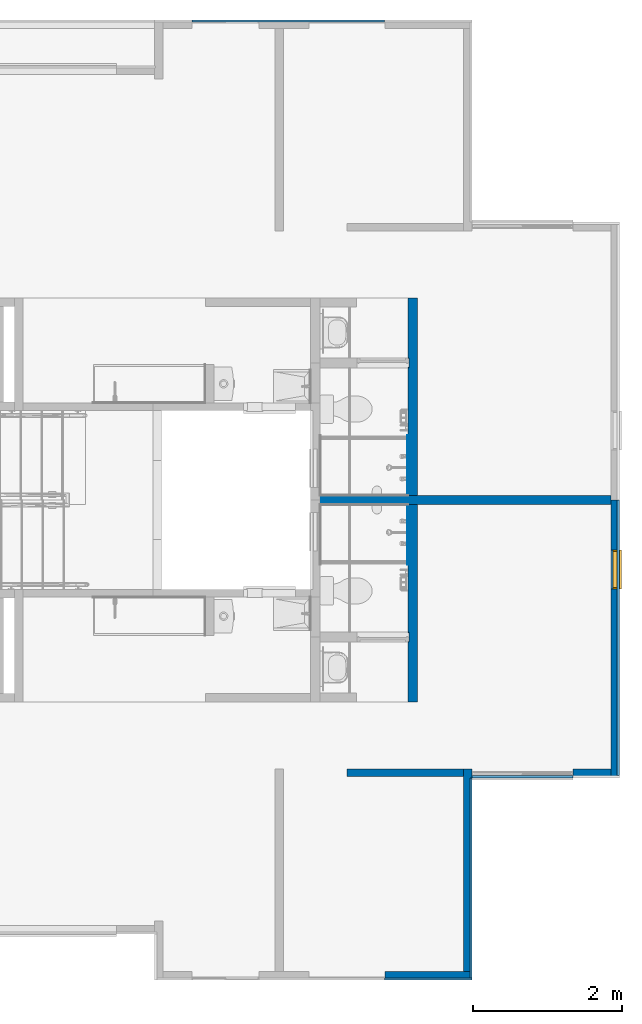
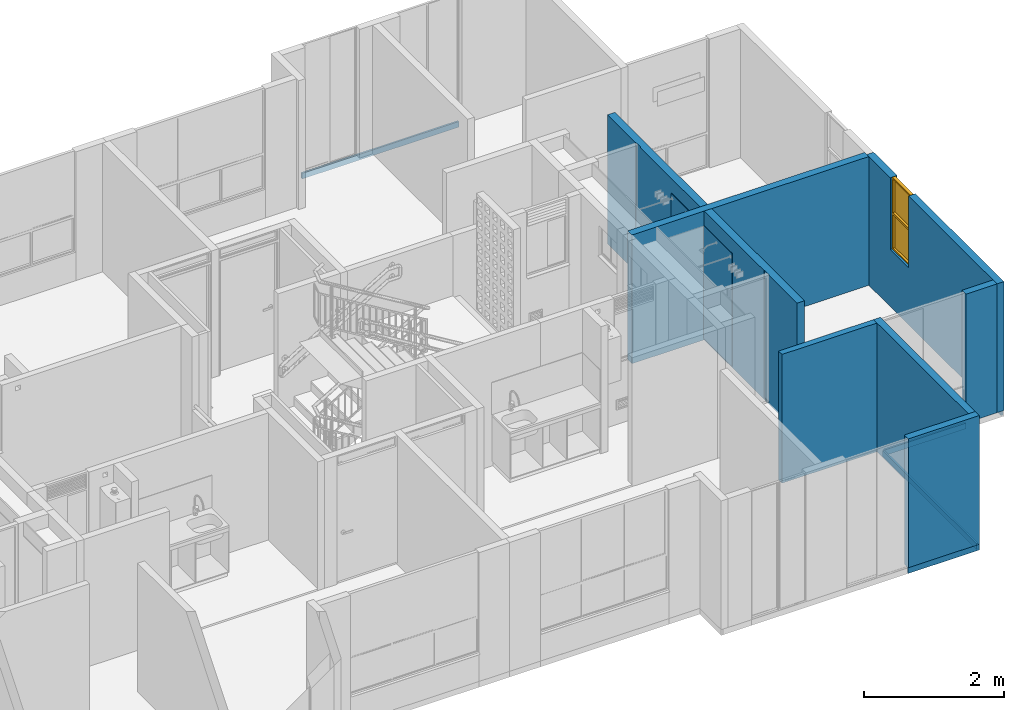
# One storey, part 27 of 51: 15 walls, 1 window, 3 openings.
"""IFC4 building model written with IfcOpenShell, lengths in metres."""

from ifc_helpers import new_model, entity, si_unit, converted_unit, derived_unit, direction, frame, origin, place, context, subcontext, project, spatial, indexed_curve, outline, extrude, polygons, source, transform, mapped, material, constituent, constituent_set, type_object, type_shapes, element, fill, save


model = new_model("IFC4")

# Units and contexts
model_context = context("Model", 3, precision=1e-05, world=origin(), true_north=direction((6.123031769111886e-17, 1.0)))
body_context = subcontext(model_context, "Body", "Model", "MODEL_VIEW")
ifc_project = project(units=[si_unit("LENGTHUNIT", "METRE"), si_unit("AREAUNIT", "SQUARE_METRE"), si_unit("VOLUMEUNIT", "CUBIC_METRE"), converted_unit("PLANEANGLEUNIT", "DEGREE", entity("IfcRatioMeasure", 0.017453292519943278), si_unit("PLANEANGLEUNIT", "RADIAN"), dimensions=[0, 0, 0, 0, 0, 0, 0]), si_unit("MASSUNIT", "GRAM", prefix="KILO"), derived_unit("MASSDENSITYUNIT", [(si_unit("MASSUNIT", "GRAM", prefix="KILO"), 1), (si_unit("LENGTHUNIT", "METRE"), -3)]), derived_unit("IONCONCENTRATIONUNIT", [(si_unit("MASSUNIT", "GRAM", prefix="KILO"), 1), (si_unit("LENGTHUNIT", "METRE"), -3)]), derived_unit("MOMENTOFINERTIAUNIT", [(si_unit("LENGTHUNIT", "METRE"), 4)]), si_unit("TIMEUNIT", "SECOND"), si_unit("FREQUENCYUNIT", "HERTZ"), si_unit("THERMODYNAMICTEMPERATUREUNIT", "DEGREE_CELSIUS"), derived_unit("THERMALTRANSMITTANCEUNIT", [(si_unit("MASSUNIT", "GRAM", prefix="KILO"), 1), (si_unit("THERMODYNAMICTEMPERATUREUNIT", "KELVIN"), -1), (si_unit("TIMEUNIT", "SECOND"), -3)]), derived_unit("THERMALCONDUCTANCEUNIT", [(si_unit("MASSUNIT", "GRAM", prefix="KILO"), 1), (si_unit("THERMODYNAMICTEMPERATUREUNIT", "KELVIN"), -1), (si_unit("TIMEUNIT", "SECOND"), -3), (si_unit("LENGTHUNIT", "METRE"), 1)]), derived_unit("VOLUMETRICFLOWRATEUNIT", [(si_unit("LENGTHUNIT", "METRE"), 3), (si_unit("TIMEUNIT", "SECOND"), -1)]), derived_unit("MASSFLOWRATEUNIT", [(si_unit("MASSUNIT", "GRAM", prefix="KILO"), 1), (si_unit("TIMEUNIT", "SECOND"), -1)]), derived_unit("ROTATIONALFREQUENCYUNIT", [(si_unit("TIMEUNIT", "SECOND"), -1)]), si_unit("ELECTRICCURRENTUNIT", "AMPERE"), si_unit("ELECTRICVOLTAGEUNIT", "VOLT"), si_unit("POWERUNIT", "WATT"), si_unit("FORCEUNIT", "NEWTON", prefix="KILO"), si_unit("ILLUMINANCEUNIT", "LUX"), si_unit("LUMINOUSFLUXUNIT", "LUMEN"), si_unit("LUMINOUSINTENSITYUNIT", "CANDELA"), derived_unit("USERDEFINED", [(si_unit("MASSUNIT", "GRAM", prefix="KILO"), -1), (si_unit("LENGTHUNIT", "METRE"), -2), (si_unit("TIMEUNIT", "SECOND"), 3), (si_unit("LUMINOUSFLUXUNIT", "LUMEN"), 1)]), derived_unit("USERDEFINED", [(si_unit("MASSUNIT", "GRAM", prefix="KILO"), 1), (si_unit("TIMEUNIT", "SECOND"), -3), (si_unit("LENGTHUNIT", "METRE"), 3), (si_unit("ELECTRICCURRENTUNIT", "AMPERE"), -2)]), derived_unit("SOUNDPOWERUNIT", [(si_unit("MASSUNIT", "GRAM", prefix="KILO"), 1), (si_unit("TIMEUNIT", "SECOND"), -3), (si_unit("LENGTHUNIT", "METRE"), 2)]), derived_unit("SOUNDPRESSUREUNIT", [(si_unit("MASSUNIT", "GRAM", prefix="KILO"), 1), (si_unit("LENGTHUNIT", "METRE"), -1), (si_unit("TIMEUNIT", "SECOND"), -2)]), derived_unit("LINEARVELOCITYUNIT", [(si_unit("LENGTHUNIT", "METRE"), 1), (si_unit("TIMEUNIT", "SECOND"), -1)]), si_unit("PRESSUREUNIT", "PASCAL"), derived_unit("USERDEFINED", [(si_unit("MASSUNIT", "GRAM", prefix="KILO"), 1), (si_unit("LENGTHUNIT", "METRE"), -2), (si_unit("TIMEUNIT", "SECOND"), -2)]), derived_unit("LINEARFORCEUNIT", [(si_unit("MASSUNIT", "GRAM", prefix="KILO"), 1), (si_unit("TIMEUNIT", "SECOND"), -2)]), derived_unit("PLANARFORCEUNIT", [(si_unit("MASSUNIT", "GRAM", prefix="KILO"), 1), (si_unit("LENGTHUNIT", "METRE"), -1), (si_unit("TIMEUNIT", "SECOND"), -2)]), derived_unit("SPECIFICHEATCAPACITYUNIT", [(si_unit("THERMODYNAMICTEMPERATUREUNIT", "KELVIN"), -1), (si_unit("LENGTHUNIT", "METRE"), 2), (si_unit("TIMEUNIT", "SECOND"), -2)]), derived_unit("HEATINGVALUEUNIT", [(si_unit("LENGTHUNIT", "METRE"), 2), (si_unit("TIMEUNIT", "SECOND"), -2)]), derived_unit("VAPORPERMEABILITYUNIT", [(si_unit("LENGTHUNIT", "METRE"), -1), (si_unit("TIMEUNIT", "SECOND"), 1)]), derived_unit("DYNAMICVISCOSITYUNIT", [(si_unit("MASSUNIT", "GRAM", prefix="KILO"), 1), (si_unit("TIMEUNIT", "SECOND"), -1), (si_unit("LENGTHUNIT", "METRE"), -1)]), derived_unit("THERMALEXPANSIONCOEFFICIENTUNIT", [(si_unit("THERMODYNAMICTEMPERATUREUNIT", "KELVIN"), -1)]), derived_unit("MODULUSOFELASTICITYUNIT", [(si_unit("MASSUNIT", "GRAM", prefix="KILO"), 1), (si_unit("LENGTHUNIT", "METRE"), -1), (si_unit("TIMEUNIT", "SECOND"), -2)]), derived_unit("ISOTHERMALMOISTURECAPACITYUNIT", [(si_unit("LENGTHUNIT", "METRE"), 3), (si_unit("MASSUNIT", "GRAM", prefix="KILO"), -1)]), derived_unit("MOISTUREDIFFUSIVITYUNIT", [(si_unit("TIMEUNIT", "SECOND"), -1), (si_unit("LENGTHUNIT", "METRE"), 2)])], contexts=[model_context])

# Site, building, storey
site_placement = place(None, origin())
site = spatial("IfcSite", under=ifc_project, at=site_placement, Name="Default", CompositionType="ELEMENT")
building_placement = place(site_placement, origin())
building = spatial("IfcBuilding", under=site, at=building_placement, CompositionType="ELEMENT")
storey_placement = place(building_placement, frame((0.0, 0.0, 2.350000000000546)))
storey = spatial("IfcBuildingStorey", under=building, at=storey_placement, Name="Nivel 2", CompositionType="ELEMENT", Elevation=2.350000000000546)

# Wall
ifc_material_1 = material(Name="Concreto (Aire)", Category="Materials")
wall_type_1 = type_object("IfcWallType", Name="Basic Wall:B2010 - 0.12m - Muro interior en concreto", PredefinedType="STANDARD")
wall_1_placement = place(storey_placement, frame((18.587500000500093, -6.425000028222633, 0.0), z_axis=(0.0, 0.0, 1.0), x_axis=(-1.0, 0.0, 0.0)))
element("IfcWall", 1, at=wall_1_placement, inside=storey, type_object=wall_type_1, material=ifc_material_1, Name="Basic Wall:B2010 - 0.12m - Muro interior en concreto", ObjectType="Basic Wall:B2010 - 0.12m - Muro interior en concreto", PredefinedType="NOTDEFINED", context=body_context, shape_type="SweptSolid", body=[
    extrude(outline(indexed_curve([(3.914999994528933, 0.06000000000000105), (1.8965521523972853e-16, 0.060000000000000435), (-1.8965521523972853e-16, -0.060000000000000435), (3.914999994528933, -0.05999999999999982), (3.914999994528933, 0.06000000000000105)], self_intersect=False)), origin(), (0.0, 0.0, 1.0), 2.2500000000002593),
])

# Wall, opening, window
ifc_material_2 = material(Name="Ladrillo claro (Aire)", Category="Materials")
wall_type_2 = type_object("IfcWallType", Name="Basic Wall:B2010 - 0.115m - Muro exterior en mampostería - Ladrillo", PredefinedType="STANDARD")
wall_2_placement = place(storey_placement, frame((18.645000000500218, -10.15500002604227, 0.0), z_axis=(0.0, 0.0, 1.0), x_axis=(0.0, 1.0, 0.0)))
wall_2 = element("IfcWall", 2, at=wall_2_placement, inside=storey, type_object=wall_type_2, material=ifc_material_2, Name="Basic Wall:B2010 - 0.115m - Muro exterior en mampostería - Ladrillo", ObjectType="Basic Wall:B2010 - 0.115m - Muro exterior en mampostería - Ladrillo", PredefinedType="NOTDEFINED", context=body_context, shape_type="Tessellation", body=[
    polygons([(3.729999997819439, -0.05750000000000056, 2.2500000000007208), (3.05624999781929, -0.05749999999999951, 2.249999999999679), (3.05624999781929, -0.05749999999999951, 0.9999999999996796), (2.5362499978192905, -0.05749999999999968, 0.9999999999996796), (2.5362499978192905, -0.05749999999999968, 2.2500000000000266), (0.0, -0.057499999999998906, 2.2500000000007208), (0.0, -0.057499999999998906, 2.707167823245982e-16), (3.729999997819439, -0.05750000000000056, 2.707167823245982e-16), (3.056249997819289, 0.057500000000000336, 0.9999999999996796), (3.056249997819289, 0.057500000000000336, 2.249999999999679), (3.729999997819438, 0.05750000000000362, 2.2500000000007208), (3.729999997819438, 0.05750000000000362, 2.707167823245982e-16), (0.0, 0.05750000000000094, 2.707167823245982e-16), (0.0, 0.05750000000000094, 2.2500000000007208), (2.5362499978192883, 0.05750000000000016, 2.2500000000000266), (2.5362499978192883, 0.05750000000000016, 0.9999999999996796)], [[[1, 2, 3, 4, 5, 6, 7, 8]], [[9, 10, 11, 12, 13, 14, 15, 16]], [[8, 7, 13, 12]], [[1, 8, 12, 11]], [[11, 10, 2, 1]], [[7, 6, 14, 13]], [[5, 4, 16, 15]], [[3, 2, 10, 9]], [[4, 3, 9, 16]], [[15, 14, 6, 5]]], closed=True),
])
opening_1_placement = place(wall_2_placement, frame((3.056249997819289, 0.05750000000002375, 1.0)))
opening_1 = element("IfcOpeningElement", 3, at=opening_1_placement, cuts=wall_2, Name="B2020 - Ventana batiente - Aluminio + Vidrio:B2020 -0.52m x 1.1.25m - Ventana batiente 2C - Aluminio + Vidrio:1", PredefinedType="OPENING", context=body_context, shape_type="SweptSolid", body=[
    extrude(outline(indexed_curve([(0.0, 0.5199999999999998), (0.0, 0.0), (1.2499999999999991, 0.0), (1.2499999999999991, 0.5199999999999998), (0.0, 0.5199999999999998)], self_intersect=False)), frame((0.0, 0.0, 0.0), z_axis=(0.0, -1.0, 0.0), x_axis=(0.0, 0.0, 1.0)), (0.0, 0.0, 1.0), 0.115),
])
ifc_material_3 = material(Name="Vidrio", Category="Materials")
ifc_constituent_1 = constituent(ifc_material_3, Name="Vidrio", Category="Materials")
ifc_material_4 = material(Name="Aluminio", Category="Materials")
ifc_constituent_2 = constituent(ifc_material_4, Name="Aluminio", Category="Materials")
ifc_material_5 = material(Name="<Unnamed>")
ifc_constituent_3 = constituent(ifc_material_5, Name="<Unnamed>")
ifc_constituent_set_1 = constituent_set(constituents=[ifc_constituent_1, ifc_constituent_2, ifc_constituent_3])
ifc_constituent_4 = constituent(ifc_material_3, Name="Vidrio", Category="Materials")
ifc_constituent_5 = constituent(ifc_material_4, Name="Aluminio", Category="Materials")
ifc_constituent_6 = constituent(ifc_material_5, Name="<Unnamed>")
ifc_constituent_set_2 = constituent_set(constituents=[ifc_constituent_4, ifc_constituent_5, ifc_constituent_6])
window_type = type_object("IfcWindowType", Name="B2020 - Ventana batiente - Aluminio + Vidrio:B2020 -0.52m x 1.1.25m - Ventana batiente 2C - Aluminio + Vidrio", PartitioningType="NOTDEFINED", PredefinedType="WINDOW", material=ifc_constituent_set_2)
shared_shape = source(origin(), body_context, "Body", "SweptSolid", [
    extrude(outline(indexed_curve([(-0.2400000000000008, -0.001999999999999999), (0.2400000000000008, -0.001999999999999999), (0.2400000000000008, 0.0020000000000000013), (-0.2400000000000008, 0.0020000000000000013), (-0.2400000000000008, -0.001999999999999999)], self_intersect=False)), frame((0.26000000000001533, 0.07013901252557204, 0.01999999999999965), z_axis=(0.0, 0.0, 1.0), x_axis=(-1.0, 0.0, 0.0)), (0.0, 0.0, 1.0), 0.585),
    extrude(outline(indexed_curve([(-0.2599999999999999, -0.3124999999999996), (0.2599999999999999, -0.3124999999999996), (0.2599999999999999, 0.3124999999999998), (-0.2599999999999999, 0.3124999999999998), (-0.2599999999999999, -0.3124999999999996)], self_intersect=False), holes=[indexed_curve([(-0.24000000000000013, 0.2925), (0.24000000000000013, 0.2925), (0.24000000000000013, -0.2924999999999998), (-0.24000000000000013, -0.2924999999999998), (-0.24000000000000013, 0.2925)], self_intersect=False)]), frame((0.260000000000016, 0.08249999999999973, 0.3124999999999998), z_axis=(0.0, -1.0, 0.0), x_axis=(-1.0, 0.0, 0.0)), (0.0, 0.0, 1.0), 0.05),
    extrude(outline(indexed_curve([(-0.2400000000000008, -0.001999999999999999), (0.2400000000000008, -0.001999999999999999), (0.2400000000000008, 0.0020000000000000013), (-0.2400000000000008, 0.0020000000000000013), (-0.2400000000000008, -0.001999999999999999)], self_intersect=False)), frame((0.2600000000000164, 0.07013901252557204, 0.6449999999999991), z_axis=(0.0, 0.0, 1.0), x_axis=(-1.0, 0.0, 0.0)), (0.0, 0.0, 1.0), 0.585),
    extrude(outline(indexed_curve([(-0.2599999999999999, -0.3124999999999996), (0.2599999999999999, -0.3124999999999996), (0.2599999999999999, 0.3124999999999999), (-0.2599999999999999, 0.3124999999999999), (-0.2599999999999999, -0.3124999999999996)], self_intersect=False), holes=[indexed_curve([(-0.24000000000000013, 0.2925000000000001), (0.24000000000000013, 0.2925000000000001), (0.24000000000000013, -0.2924999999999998), (-0.24000000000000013, -0.2924999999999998), (-0.24000000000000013, 0.2925000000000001)], self_intersect=False)]), frame((0.26000000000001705, 0.08249999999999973, 0.9374999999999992), z_axis=(0.0, -1.0, 0.0), x_axis=(-1.0, 0.0, 0.0)), (0.0, 0.0, 1.0), 0.05),
    extrude(outline(indexed_curve([(-0.0015331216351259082, 0.002611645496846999), (0.030966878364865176, 0.002611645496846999), (0.030966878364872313, 0.007611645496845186), (-0.0028728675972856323, 0.007611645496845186), (-0.030013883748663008, -0.008058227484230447), (-0.027513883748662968, -0.012388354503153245), (-0.0015331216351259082, 0.002611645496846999)], self_intersect=False)), frame((0.5200000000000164, 0.11346687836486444, -0.002611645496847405), z_axis=(-1.0, 0.0, 0.0), x_axis=(0.0, -1.0, 0.0)), (0.0, 0.0, 1.0), 0.5200000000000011),
])
type_shapes(window_type, [shared_shape])
window_placement = place(opening_1_placement, frame((0.0, 0.0, 0.0), z_axis=(0.0, 0.0, 1.0), x_axis=(-1.0, 0.0, 0.0)))
window = element("IfcWindow", 4, at=window_placement, inside=storey, type_object=window_type, material=ifc_constituent_set_1, Name="B2020 - Ventana batiente - Aluminio + Vidrio:B2020 -0.52m x 1.1.25m - Ventana batiente 2C - Aluminio + Vidrio", ObjectType="B2020 - Ventana batiente - Aluminio + Vidrio:B2020 -0.52m x 1.1.25m - Ventana batiente 2C - Aluminio + Vidrio", OverallHeight=1.2499999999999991, OverallWidth=0.5199999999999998, PartitioningType="NOTDEFINED", PredefinedType="WINDOW", context=body_context, shape_type="MappedRepresentation", body=[
    mapped(shared_shape, transform((0.0, 0.0, 0.0), scale=1.0)),
])
fill(opening_1, window)

# Walls
wall_3_placement = place(storey_placement, frame((16.670000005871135, -10.040000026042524, 0.0), z_axis=(0.0, 0.0, 1.0), x_axis=(0.0, -1.0, 0.0)))
element("IfcWall", 5, at=wall_3_placement, inside=storey, type_object=wall_type_2, material=ifc_material_2, Name="Basic Wall:B2010 - 0.115m - Muro exterior en mampostería - Ladrillo", ObjectType="Basic Wall:B2010 - 0.115m - Muro exterior en mampostería - Ladrillo", PredefinedType="NOTDEFINED", context=body_context, shape_type="SweptSolid", body=[
    extrude(outline(indexed_curve([(2.7150000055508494, 0.05750000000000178), (-1.0024667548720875e-15, 0.057499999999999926), (1.0024667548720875e-15, -0.057499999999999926), (2.7150000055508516, -0.057499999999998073), (2.7150000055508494, 0.05750000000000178)], self_intersect=False)), origin(), (0.0, 0.0, 1.0), 2.2500000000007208),
])
ifc_material_6 = material(Name="LADRILLO CLARO", Category="Materials")
wall_type_3 = type_object("IfcWallType", Name="Basic Wall:B2010 - 0.115m - ME mampostería no estructural - Ladrillo", PredefinedType="STANDARD")
wall_4_placement = place(storey_placement, frame((18.587500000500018, -10.097500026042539, 0.0), z_axis=(0.0, 0.0, 1.0), x_axis=(-1.0, 0.0, 0.0)))
element("IfcWall", 6, at=wall_4_placement, inside=storey, type_object=wall_type_3, material=ifc_material_6, Name="Basic Wall:B2010 - 0.115m - ME mampostería no estructural - Ladrillo", ObjectType="Basic Wall:B2010 - 0.115m - ME mampostería no estructural - Ladrillo", PredefinedType="NOTDEFINED", context=body_context, shape_type="SweptSolid", body=[
    extrude(outline(indexed_curve([(0.5099999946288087, 0.05749999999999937), (-1.82274758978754e-16, 0.057499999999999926), (1.82274758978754e-16, -0.057499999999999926), (0.5099999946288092, -0.057500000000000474), (0.5099999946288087, 0.05749999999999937)], self_intersect=False)), origin(), (0.0, 0.0, 1.0), 2.2500000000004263),
])
wall_5_placement = place(storey_placement, frame((15.553300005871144, -12.812500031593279, 0.0)))
element("IfcWall", 7, at=wall_5_placement, inside=storey, type_object=wall_type_3, material=ifc_material_6, Name="Basic Wall:B2010 - 0.115m - ME mampostería no estructural - Ladrillo", ObjectType="Basic Wall:B2010 - 0.115m - ME mampostería no estructural - Ladrillo", PredefinedType="NOTDEFINED", context=body_context, shape_type="SweptSolid", body=[
    extrude(outline(indexed_curve([(1.174199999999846, 0.0574999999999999), (3.1925536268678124e-16, 0.057499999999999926), (-3.1925536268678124e-16, -0.057499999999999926), (1.1741999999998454, -0.05749999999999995), (1.174199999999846, 0.0574999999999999)], self_intersect=False)), origin(), (0.0, 0.0, 1.0), 2.2500000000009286),
])
wall_type_4 = type_object("IfcWallType", Name="Basic Wall:B2010 - 0.10m - Muro interior en concreto", PredefinedType="STANDARD")
wall_6_placement = place(storey_placement, frame((16.612500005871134, -10.090000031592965, 0.0), z_axis=(0.0, 0.0, 1.0), x_axis=(-1.0, 0.0, 0.0)))
element("IfcWall", 8, at=wall_6_placement, inside=storey, type_object=wall_type_4, material=ifc_material_1, Name="Basic Wall:B2010 - 0.10m - Muro interior en concreto", ObjectType="Basic Wall:B2010 - 0.10m - Muro interior en concreto", PredefinedType="NOTDEFINED", context=body_context, shape_type="SweptSolid", body=[
    extrude(outline(indexed_curve([(1.5699999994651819, 0.04999999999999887), (7.775903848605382e-16, 0.04999999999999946), (-7.775903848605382e-16, -0.04999999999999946), (1.5699999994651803, -0.05000000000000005), (1.5699999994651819, 0.04999999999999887)], self_intersect=False)), origin(), (0.0, 0.0, 1.0), 2.2499999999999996),
])

# Wall, opening
ifc_material_7 = material(Name="Pañete", Category="Materials")
ifc_constituent_7 = constituent(ifc_material_7, Name="Pañete", Category="Materials")
ifc_constituent_8 = constituent(ifc_material_2, Name="Ladrillo claro (Aire)", Category="Materials")
ifc_constituent_set_3 = constituent_set(constituents=[ifc_constituent_7, ifc_constituent_8], Name="Basic Wall:B2010 - 0.115m - Muro interior en mampostería - Ladrillo + Pañete")
wall_type_5 = type_object("IfcWallType", Name="Basic Wall:B2010 - 0.115m - Muro interior en mampostería - Ladrillo + Pañete", PredefinedType="STANDARD", material=ifc_constituent_set_3)
wall_7_placement = place(storey_placement, frame((15.929998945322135, -3.7100000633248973, 0.0), z_axis=(0.0, 0.0, 1.0), x_axis=(0.0, -1.0, 0.0)))
wall_7 = element("IfcWall", 9, at=wall_7_placement, inside=storey, type_object=wall_type_5, material=ifc_constituent_set_3, Name="Basic Wall:B2010 - 0.115m - Muro interior en mampostería - Ladrillo + Pañete", ObjectType="Basic Wall:B2010 - 0.115m - Muro interior en mampostería - Ladrillo + Pañete", PredefinedType="NOTDEFINED", context=body_context, shape_type="SweptSolid", body=[
    extrude(outline(indexed_curve([(-0.755, -1.1920833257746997), (1.495, -1.1920833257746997), (1.495, -0.38708332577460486), (-0.7249999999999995, -0.38708332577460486), (-0.7249999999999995, -0.2520833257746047), (1.495, -0.2520833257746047), (1.495, 1.4629166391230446), (-0.755, 1.4629166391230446), (-0.755, 0.7129166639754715), (-0.755, 0.662916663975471), (-0.755, -0.2520833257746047), (-0.755, -0.38708332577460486), (-0.755, -1.1920833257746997)], self_intersect=False)), frame((1.1920833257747, -0.062499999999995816, 0.7549999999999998), z_axis=(0.0, 1.0, 0.0), x_axis=(0.0, 0.0, 1.0)), (0.0, 0.0, 1.0), 0.009999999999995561),
    extrude(outline(indexed_curve([(-0.05750000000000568, -1.3274999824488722), (0.05749999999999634, -1.3274999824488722), (0.05750000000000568, 1.3274999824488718), (-0.05749999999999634, 1.3274999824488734), (-0.05750000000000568, -1.3274999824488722)], self_intersect=False)), frame((1.3274999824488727, 0.005000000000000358, 0.0), z_axis=(0.0, 0.0, 1.0), x_axis=(0.0, -1.0, 0.0)), (0.0, 0.0, 1.0), 2.25),
])
opening_2_placement = place(wall_7_placement, origin())
element("IfcOpeningElement", 10, at=opening_2_placement, cuts=wall_7, Name="Basic Wall:B2010 - 0.115m - Muro interior en mampostería - Ladrillo + Pañete", PredefinedType="OPENING", context=body_context, shape_type="SweptSolid", body=[
    extrude(outline(indexed_curve([(-0.06749999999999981, -1.1099999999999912), (0.06750000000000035, -1.1099999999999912), (0.06750000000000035, 1.1099999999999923), (-0.06749999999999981, 1.109999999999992), (-0.06749999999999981, -1.1099999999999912)], self_intersect=False)), frame((0.8725000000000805, -0.7524999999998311, 1.1399999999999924), z_axis=(0.0, 1.0, 0.0), x_axis=(1.0, 0.0, 0.0)), (0.0, 0.0, 1.0), 0.7000000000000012),
])

wall_8_placement = place(storey_placement, frame((15.92999894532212, -9.139999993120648, 0.0), z_axis=(0.0, 0.0, 1.0), x_axis=(0.0, 1.0, 0.0)))
wall_8 = element("IfcWall", 11, at=wall_8_placement, inside=storey, type_object=wall_type_5, material=ifc_constituent_set_3, Name="Basic Wall:B2010 - 0.115m - Muro interior en mampostería - Ladrillo + Pañete", ObjectType="Basic Wall:B2010 - 0.115m - Muro interior en mampostería - Ladrillo + Pañete", PredefinedType="NOTDEFINED", context=body_context, shape_type="SweptSolid", body=[
    extrude(outline(indexed_curve([(-0.755, -1.4629166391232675), (1.495, -1.4629166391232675), (1.495, 0.25208332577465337), (-0.7249999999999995, 0.25208332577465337), (-0.7249999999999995, 0.38708332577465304), (1.495, 0.38708332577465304), (1.495, 1.1920833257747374), (-0.755, 1.1920833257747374), (-0.755, 0.38708332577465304), (-0.755, 0.25208332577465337), (-0.755, -0.6629166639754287), (-0.755, -0.7129166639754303), (-0.755, -1.4629166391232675)], self_intersect=False)), frame((1.1920833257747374, 0.06250000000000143, 0.7549999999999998), z_axis=(0.0, -1.0, 0.0), x_axis=(0.0, 0.0, 1.0)), (0.0, 0.0, 1.0), 0.009999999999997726),
    extrude(outline(indexed_curve([(-0.05750000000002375, -1.3274999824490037), (0.0574999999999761, -1.3274999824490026), (0.05750000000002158, 1.3274999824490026), (-0.05749999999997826, 1.3274999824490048), (-0.05750000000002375, -1.3274999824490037)], self_intersect=False)), frame((1.3274999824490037, -0.00499999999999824, 0.0), z_axis=(0.0, 0.0, 1.0), x_axis=(0.0, 1.0, 0.0)), (0.0, 0.0, 1.0), 2.25),
])
opening_3_placement = place(wall_8_placement, origin())
element("IfcOpeningElement", 12, at=opening_3_placement, cuts=wall_8, Name="Basic Wall:B2010 - 0.115m - Muro interior en mampostería - Ladrillo + Pañete", PredefinedType="OPENING", context=body_context, shape_type="SweptSolid", body=[
    extrude(outline(indexed_curve([(-0.06749999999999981, -1.1099999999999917), (0.06749999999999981, -1.1099999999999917), (0.06749999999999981, 1.1099999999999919), (-0.06749999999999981, 1.1099999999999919), (-0.06749999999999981, -1.1099999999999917)], self_intersect=False)), frame((0.8725000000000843, 0.05249999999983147, 1.139999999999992), z_axis=(0.0, 1.0, 0.0), x_axis=(-1.0, 0.0, 0.0)), (0.0, 0.0, 1.0), 0.7000000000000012),
])

# Walls
ifc_material_8 = material(Name="Ceramica 0.25m x 0.35m", Category="Materials")
wall_type_6 = type_object("IfcWallType", Name="Basic Wall:C2010 - 0.25 x 0.35 - Enchape cerámico", PredefinedType="STANDARD")
wall_9_placement = place(storey_placement, frame((15.862498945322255, -6.365000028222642, 0.030000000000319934), z_axis=(0.0, 0.0, 1.0), x_axis=(0.0, 1.0, 0.0)))
element("IfcWall", 13, at=wall_9_placement, inside=storey, type_object=wall_type_6, material=ifc_material_8, Name="Basic Wall:C2010 - 0.25 x 0.35 - Enchape cerámico", ObjectType="Basic Wall:C2010 - 0.25 x 0.35 - Enchape cerámico", PredefinedType="NOTDEFINED", context=body_context, shape_type="SweptSolid", body=[
    extrude(outline(indexed_curve([(0.8099999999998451, 0.005000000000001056), (-1.654422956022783e-19, 0.005000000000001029), (1.654422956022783e-19, -0.005000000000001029), (0.8099999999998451, -0.005000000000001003), (0.8099999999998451, 0.005000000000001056)], self_intersect=False)), origin(), (0.0, 0.0, 1.0), 1.9699999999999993),
])
wall_10_placement = place(storey_placement, frame((15.862498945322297, -6.485000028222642, 0.030000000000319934), z_axis=(0.0, 0.0, 1.0), x_axis=(0.0, -1.0, 0.0)))
element("IfcWall", 14, at=wall_10_placement, inside=storey, type_object=wall_type_6, material=ifc_material_8, Name="Basic Wall:C2010 - 0.25 x 0.35 - Enchape cerámico", ObjectType="Basic Wall:C2010 - 0.25 x 0.35 - Enchape cerámico", PredefinedType="NOTDEFINED", context=body_context, shape_type="SweptSolid", body=[
    extrude(outline(indexed_curve([(0.8100000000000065, 0.005000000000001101), (-4.468811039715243e-19, 0.005000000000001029), (4.468811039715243e-19, -0.005000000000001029), (0.8100000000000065, -0.005000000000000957), (0.8100000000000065, 0.005000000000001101)], self_intersect=False)), origin(), (0.0, 0.0, 1.0), 1.9699999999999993),
])
wall_type_7 = type_object("IfcWallType", Name="Basic Wall:B2010 - 0.03m - ME enchape  no estructural - Ladrillo", PredefinedType="STANDARD")
wall_11_placement = place(storey_placement, frame((16.712500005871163, -12.840000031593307, -0.10000000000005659), z_axis=(0.0, 0.0, 1.0), x_axis=(0.0, 1.0, 0.0)))
element("IfcWall", 15, at=wall_11_placement, inside=storey, type_object=wall_type_7, material=ifc_material_6, Name="Basic Wall:B2010 - 0.03m - ME enchape  no estructural - Ladrillo", ObjectType="Basic Wall:B2010 - 0.03m - ME enchape  no estructural - Ladrillo", PredefinedType="NOTDEFINED", context=body_context, shape_type="SweptSolid", body=[
    extrude(outline(indexed_curve([(2.683660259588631, 0.015000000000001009), (-2.4689444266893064e-17, 0.015000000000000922), (2.4689444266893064e-17, -0.015000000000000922), (2.683660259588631, -0.015000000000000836), (2.683660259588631, 0.015000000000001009)], self_intersect=False)), origin(), (0.0, 0.0, 1.0), 0.1),
])
wall_12_placement = place(storey_placement, frame((18.687500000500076, -10.125000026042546, -0.10000000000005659), z_axis=(0.0, 0.0, 1.0), x_axis=(0.0, 1.0, 0.0)))
element("IfcWall", 16, at=wall_12_placement, inside=storey, type_object=wall_type_7, material=ifc_material_6, Name="Basic Wall:B2010 - 0.03m - ME enchape  no estructural - Ladrillo", ObjectType="Basic Wall:B2010 - 0.03m - ME enchape  no estructural - Ladrillo", PredefinedType="NOTDEFINED", context=body_context, shape_type="SweptSolid", body=[
    extrude(outline(indexed_curve([(3.699999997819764, 0.015000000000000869), (-2.6129816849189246e-17, 0.015000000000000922), (2.6129816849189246e-17, -0.015000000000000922), (3.699999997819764, -0.015000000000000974), (3.699999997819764, 0.015000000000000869)], self_intersect=False)), origin(), (0.0, 0.0, 1.0), 0.1),
])
wall_13_placement = place(storey_placement, frame((12.962500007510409, 0.004999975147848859, -0.10000000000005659)))
element("IfcWall", 17, at=wall_13_placement, inside=storey, type_object=wall_type_7, material=ifc_material_6, Name="Basic Wall:B2010 - 0.03m - ME enchape  no estructural - Ladrillo", ObjectType="Basic Wall:B2010 - 0.03m - ME enchape  no estructural - Ladrillo", PredefinedType="NOTDEFINED", context=body_context, shape_type="SweptSolid", body=[
    extrude(outline(indexed_curve([(2.5899999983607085, 0.014999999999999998), (4.3864338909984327e-17, 0.015), (-4.3864338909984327e-17, -0.015), (2.5899999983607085, -0.015000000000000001), (2.5899999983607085, 0.014999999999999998)], self_intersect=False)), origin(), (0.0, 0.0, 1.0), 0.1),
])
wall_14_placement = place(storey_placement, frame((15.552500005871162, -12.855000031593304, -0.10000000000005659)))
element("IfcWall", 18, at=wall_14_placement, inside=storey, type_object=wall_type_7, material=ifc_material_6, Name="Basic Wall:B2010 - 0.03m - ME enchape  no estructural - Ladrillo", ObjectType="Basic Wall:B2010 - 0.03m - ME enchape  no estructural - Ladrillo", PredefinedType="NOTDEFINED", context=body_context, shape_type="SweptSolid", body=[
    extrude(outline(indexed_curve([(1.1749999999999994, 0.015000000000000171), (-4.570130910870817e-17, 0.015000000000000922), (4.570130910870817e-17, -0.015000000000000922), (1.1749999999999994, -0.015000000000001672), (1.1749999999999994, 0.015000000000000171)], self_intersect=False)), origin(), (0.0, 0.0, 1.0), 0.1),
])
wall_15_placement = place(storey_placement, frame((18.077500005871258, -10.140000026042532, -0.10000000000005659), z_axis=(0.0, 0.0, 1.0), x_axis=(-1.0, 0.0, 0.0)))
element("IfcWall", 19, at=wall_15_placement, inside=storey, type_object=wall_type_7, material=ifc_material_6, Name="Basic Wall:B2010 - 0.03m - ME enchape  no estructural - Ladrillo", ObjectType="Basic Wall:B2010 - 0.03m - ME enchape  no estructural - Ladrillo", PredefinedType="NOTDEFINED", context=body_context, shape_type="SweptSolid", body=[
    extrude(outline(indexed_curve([(1.3500000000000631, 0.015000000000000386), (-3.068945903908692e-16, 0.015000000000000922), (3.068945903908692e-16, -0.015000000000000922), (1.3500000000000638, -0.015000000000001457), (1.3500000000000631, 0.015000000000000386)], self_intersect=False)), origin(), (0.0, 0.0, 1.0), 0.1),
])

save(model, "model.ifc")
